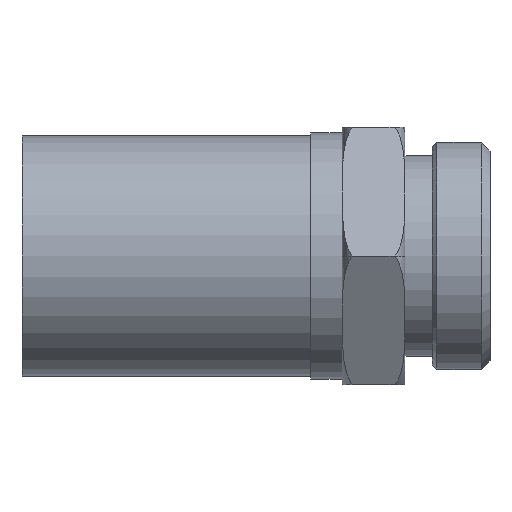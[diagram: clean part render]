
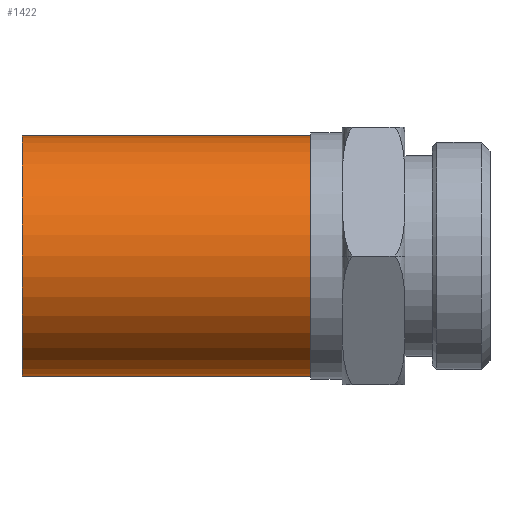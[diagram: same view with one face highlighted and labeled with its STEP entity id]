
A CAD part, left-side view. The second image highlights one B-rep face of the part: STEP entity #1422.
In plain terms, the highlighted cylindrical face has radius 14 mm (diameter 28 mm), a partial arc.
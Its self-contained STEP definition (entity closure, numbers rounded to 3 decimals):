
#785=CARTESIAN_POINT('',(0.,11.,0.));
#786=DIRECTION('',(0.,1.,0.));
#787=DIRECTION('',(0.,0.,-1.));
#788=AXIS2_PLACEMENT_3D('',#785,#786,#787);
#795=DIRECTION('',(0.,1.,0.));
#796=VECTOR('',#795,33.6);
#797=CARTESIAN_POINT('',(0.,11.,-14.));
#798=LINE('4327',#797,#796);
#799=DIRECTION('',(0.,1.,0.));
#800=VECTOR('',#799,33.6);
#801=CARTESIAN_POINT('',(0.,11.,14.));
#802=LINE('4329',#801,#800);
#803=CARTESIAN_POINT('',(0.,44.6,0.));
#804=DIRECTION('',(0.,-1.,0.));
#805=DIRECTION('',(0.,0.,1.));
#806=AXIS2_PLACEMENT_3D('',#803,#804,#805);
#877=CARTESIAN_POINT('',(0.,11.,-14.));
#878=CARTESIAN_POINT('',(0.,11.,14.));
#879=VERTEX_POINT('',#877);
#880=VERTEX_POINT('',#878);
#881=CARTESIAN_POINT('',(0.,44.6,-14.));
#882=VERTEX_POINT('',#881);
#883=CARTESIAN_POINT('',(0.,44.6,14.));
#884=VERTEX_POINT('',#883);
#1408=CARTESIAN_POINT('',(0.,44.6,0.));
#1409=DIRECTION('',(0.,-1.,0.));
#1410=DIRECTION('',(0.,0.,1.));
#1411=AXIS2_PLACEMENT_3D('',#1408,#1409,#1410);
#1412=CYLINDRICAL_SURFACE('4358',#1411,14.);
#1413=ORIENTED_EDGE('4325',*,*,#1401,.F.);
#1415=ORIENTED_EDGE('4327',*,*,#1414,.T.);
#1417=ORIENTED_EDGE('4328',*,*,#1416,.F.);
#1419=ORIENTED_EDGE('4329',*,*,#1418,.F.);
#1420=EDGE_LOOP('4358',(#1413,#1415,#1417,#1419));
#1421=FACE_OUTER_BOUND('4358',#1420,.F.);
#1422=ADVANCED_FACE('4358',(#1421),#1412,.T.);
#789=CIRCLE('4325',#788,14.);
#807=CIRCLE('4328',#806,14.);
#1401=EDGE_CURVE('4325',#879,#880,#789,.T.);
#1414=EDGE_CURVE('4327',#879,#882,#798,.T.);
#1416=EDGE_CURVE('4328',#884,#882,#807,.T.);
#1418=EDGE_CURVE('4329',#880,#884,#802,.T.);
